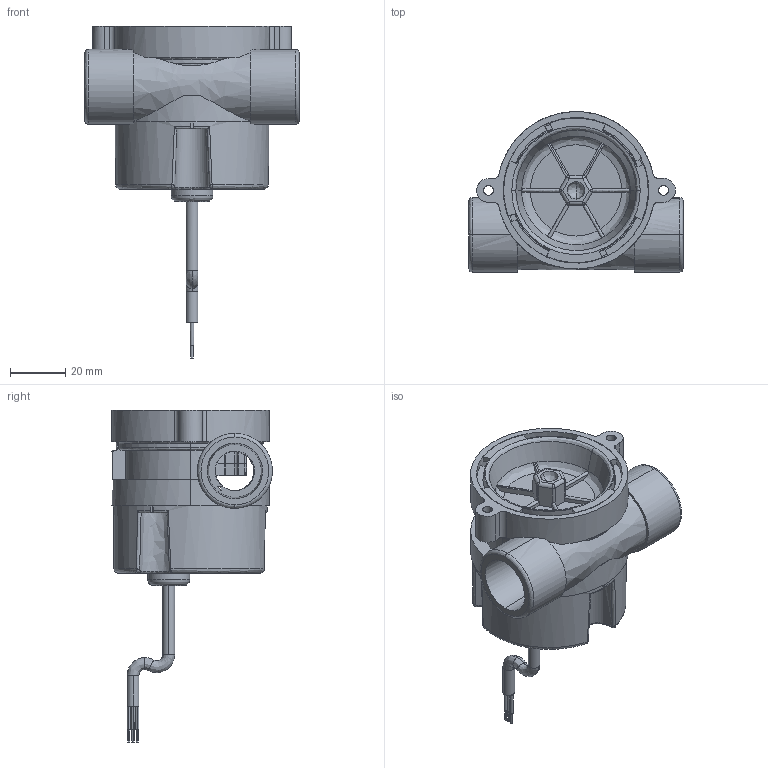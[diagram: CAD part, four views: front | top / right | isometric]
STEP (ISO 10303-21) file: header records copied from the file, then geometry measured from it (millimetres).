
FILE_DESCRIPTION (( 'STEP AP214' ), '1' );
FILE_NAME ('Sen-204F.STEP', '2020-12-10T20:46:01', ( '' ), ( '' ), 'SwSTEP 2.0', 'SolidWorks 2020', '' );
FILE_SCHEMA (( 'AUTOMOTIVE_DESIGN' ));
Length unit declared in the file: millimetre
Products named in the file (9): DEFAULT-5.igs; DEFAULT-4.igs; Sen-204F; DEFAULT-1.igs; DEFAULT-3.igs; Sen-204F.igs; DEFAULT-2.igs; DEFAULT-0.igs; DEFAULT.igs
Assembly tree (8 placements, depth 3):
  Sen-204F
    Sen-204F.igs
      DEFAULT.igs
      DEFAULT-0.igs
      DEFAULT-1.igs
      DEFAULT-2.igs
      DEFAULT-3.igs
      DEFAULT-4.igs
      DEFAULT-5.igs
Bounding box: 77.72 x 58.29 x 120.46 mm (x, y, z)
Volume: 103272 mm3; surface area: 46669.5 mm2
Topology: 7 solids, 7 shells, 681 faces, 1753 edges, 1097 vertices
Faces by surface type: bspline 423, plane 258
Entity records: 27720 total; most frequent: CARTESIAN_POINT 16554, ORIENTED_EDGE 3480, EDGE_CURVE 1740, B_SPLINE_CURVE_WITH_KNOTS 1212, VERTEX_POINT 1095, EDGE_LOOP 719, FACE_OUTER_BOUND 681, ADVANCED_FACE 681
